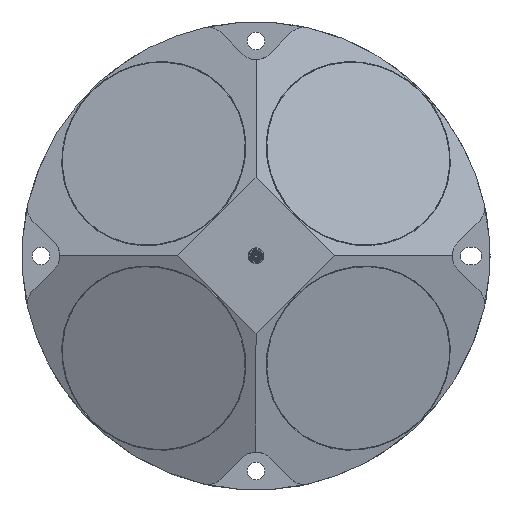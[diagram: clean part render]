
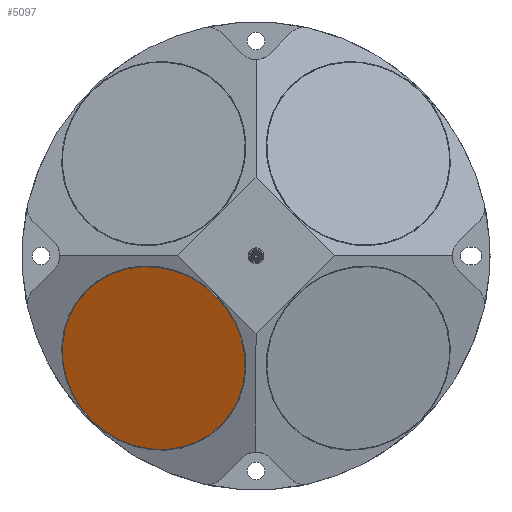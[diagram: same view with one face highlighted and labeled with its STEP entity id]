
A CAD part, top view. The second image highlights one B-rep face of the part: STEP entity #5097.
In plain terms, the highlighted planar face has unit normal (-0.271, -0.271, 0.924).
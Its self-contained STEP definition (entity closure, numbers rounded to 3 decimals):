
#362=PLANE('',#5583);
#613=FACE_OUTER_BOUND('',#932,.T.);
#932=EDGE_LOOP('',(#4198));
#1927=CIRCLE('',#5584,30.135);
#2344=VERTEX_POINT('',#8444);
#2984=EDGE_CURVE('',#2344,#2344,#1927,.T.);
#4198=ORIENTED_EDGE('',*,*,#2984,.T.);
#5097=ADVANCED_FACE('',(#613),#362,.F.);
#5583=AXIS2_PLACEMENT_3D('',#8443,#6783,#6784);
#5584=AXIS2_PLACEMENT_3D('',#8445,#6785,#6786);
#6783=DIRECTION('center_axis',(0.271,0.271,-0.924));
#6784=DIRECTION('ref_axis',(-0.653,-0.653,-0.383));
#6785=DIRECTION('center_axis',(-0.271,-0.271,0.924));
#6786=DIRECTION('ref_axis',(-0.653,-0.653,-0.383));
#8443=CARTESIAN_POINT('Origin',(-12.386,-12.386,39.5));
#8444=CARTESIAN_POINT('',(-12.758,-12.758,39.282));
#8445=CARTESIAN_POINT('Origin',(-32.444,-32.444,27.75));
